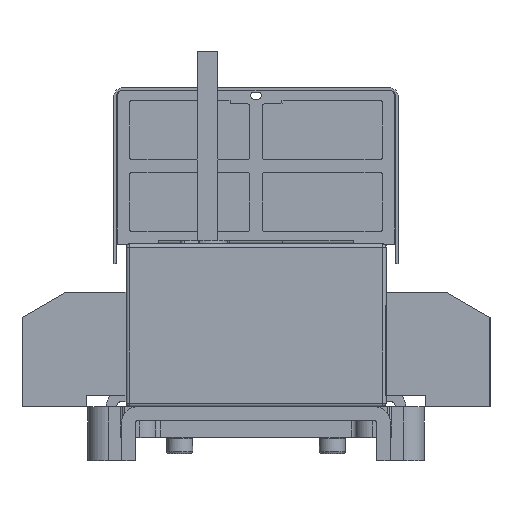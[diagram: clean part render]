
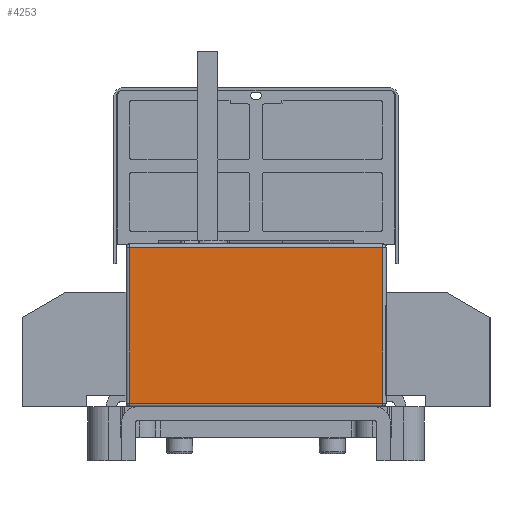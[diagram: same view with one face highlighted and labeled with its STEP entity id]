
A CAD part, left-side view. The second image highlights one B-rep face of the part: STEP entity #4253.
In plain terms, the highlighted planar face has unit normal (-1, 0, 0).
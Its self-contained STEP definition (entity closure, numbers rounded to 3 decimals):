
#4253=ADVANCED_FACE('',(#6991),#5388,.F.);
#5388=PLANE('',#36114);
#6991=FACE_OUTER_BOUND('',#9038,.T.);
#9038=EDGE_LOOP('',(#17474,#17475,#17476,#17477));
#17474=ORIENTED_EDGE('',*,*,#26374,.T.);
#17475=ORIENTED_EDGE('',*,*,#26355,.T.);
#17476=ORIENTED_EDGE('',*,*,#26366,.T.);
#17477=ORIENTED_EDGE('',*,*,#26344,.T.);
#21747=VERTEX_POINT('',#57939);
#21751=VERTEX_POINT('',#57950);
#21756=VERTEX_POINT('',#57967);
#21757=VERTEX_POINT('',#57971);
#26344=EDGE_CURVE('',#21751,#21747,#29774,.T.);
#26355=EDGE_CURVE('',#21757,#21756,#29779,.T.);
#26366=EDGE_CURVE('',#21756,#21751,#29782,.T.);
#26374=EDGE_CURVE('',#21747,#21757,#29790,.T.);
#29774=LINE('',#57953,#33146);
#29779=LINE('',#57974,#33151);
#29782=LINE('',#57997,#33154);
#29790=LINE('',#58008,#33162);
#33146=VECTOR('',#45064,1.);
#33151=VECTOR('',#45089,1.);
#33154=VECTOR('',#45118,1.);
#33162=VECTOR('',#45132,1.);
#36114=AXIS2_PLACEMENT_3D('',#58012,#45138,#45139);
#45064=DIRECTION('',(0.,1.,0.));
#45089=DIRECTION('',(0.,-1.,0.));
#45118=DIRECTION('',(0.,0.,1.));
#45132=DIRECTION('',(0.,0.,-1.));
#45138=DIRECTION('',(1.,0.,0.));
#45139=DIRECTION('',(0.,1.,0.));
#57939=CARTESIAN_POINT('',(-150.,73.,92.));
#57950=CARTESIAN_POINT('',(-150.,-73.,92.));
#57953=CARTESIAN_POINT('',(-150.,73.,92.));
#57967=CARTESIAN_POINT('',(-150.,-73.,2.));
#57971=CARTESIAN_POINT('',(-150.,73.,2.));
#57974=CARTESIAN_POINT('',(-150.,75.,2.));
#57997=CARTESIAN_POINT('',(-150.,-73.,94.));
#58008=CARTESIAN_POINT('',(-150.,73.,94.));
#58012=CARTESIAN_POINT('',(-150.,75.,94.));
